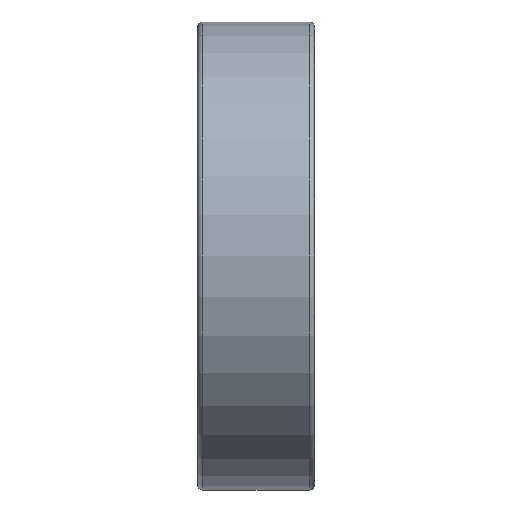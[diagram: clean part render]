
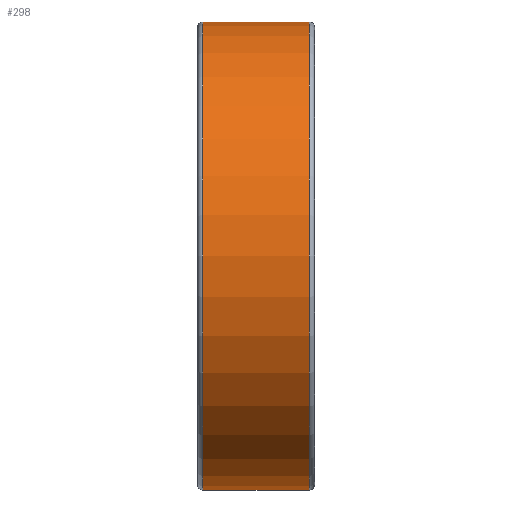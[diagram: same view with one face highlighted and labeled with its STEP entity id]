
A CAD part, front view. The second image highlights one B-rep face of the part: STEP entity #298.
In plain terms, the highlighted cylindrical face has radius 14 mm (diameter 28 mm), a full revolution.
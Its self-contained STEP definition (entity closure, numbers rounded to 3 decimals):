
#241=CYLINDRICAL_SURFACE('',#975,14.);
#298=ADVANCED_FACE('',(#444,#445),#241,.T.);
#444=FACE_BOUND('',#577,.T.);
#445=FACE_BOUND('',#578,.T.);
#577=EDGE_LOOP('',(#705));
#578=EDGE_LOOP('',(#706));
#705=ORIENTED_EDGE('',*,*,#854,.T.);
#706=ORIENTED_EDGE('',*,*,#853,.F.);
#784=VERTEX_POINT('',#3191);
#785=VERTEX_POINT('',#3194);
#853=EDGE_CURVE('',#784,#784,#885,.T.);
#854=EDGE_CURVE('',#785,#785,#886,.T.);
#885=CIRCLE('',#972,14.);
#886=CIRCLE('',#974,14.);
#972=AXIS2_PLACEMENT_3D('',#3190,#1152,#1153);
#974=AXIS2_PLACEMENT_3D('',#3193,#1156,#1157);
#975=AXIS2_PLACEMENT_3D('',#3195,#1158,#1159);
#1152=DIRECTION('',(-1.,0.,0.));
#1153=DIRECTION('',(0.,0.,1.));
#1156=DIRECTION('',(-1.,0.,0.));
#1157=DIRECTION('',(0.,0.,1.));
#1158=DIRECTION('',(-1.,0.,0.));
#1159=DIRECTION('',(0.,0.,1.));
#3190=CARTESIAN_POINT('',(0.3,0.,0.));
#3191=CARTESIAN_POINT('',(0.3,0.,14.));
#3193=CARTESIAN_POINT('',(6.7,0.,0.));
#3194=CARTESIAN_POINT('',(6.7,0.,14.));
#3195=CARTESIAN_POINT('',(7.,0.,0.));
